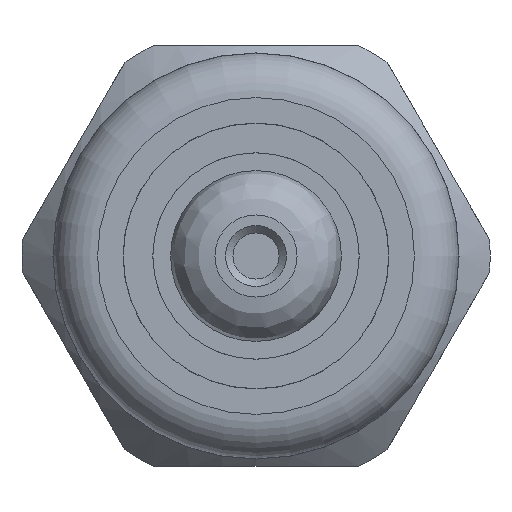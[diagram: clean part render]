
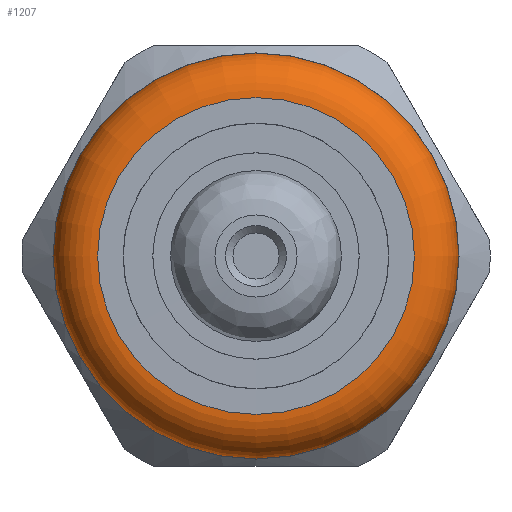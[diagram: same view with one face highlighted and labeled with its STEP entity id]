
A CAD part, left-side view. The second image highlights one B-rep face of the part: STEP entity #1207.
In plain terms, the highlighted toroidal (fillet/blend) face has major radius 10.734 mm and minor radius 3 mm.
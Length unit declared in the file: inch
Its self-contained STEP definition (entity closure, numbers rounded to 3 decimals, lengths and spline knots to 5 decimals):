
#15=TOROIDAL_SURFACE('',#1385,0.4226,0.11811);
#144=FACE_OUTER_BOUND('',#214,.T.);
#214=EDGE_LOOP('',(#1043,#1044,#1045,#1046,#1047,#1048));
#414=CIRCLE('',#1383,0.54071);
#415=CIRCLE('',#1384,0.54071);
#416=CIRCLE('',#1386,0.42233);
#417=CIRCLE('',#1387,0.42233);
#418=CIRCLE('',#1388,0.11811);
#535=VERTEX_POINT('',#2294);
#536=VERTEX_POINT('',#2295);
#537=VERTEX_POINT('',#2300);
#538=VERTEX_POINT('',#2301);
#704=EDGE_CURVE('',#535,#536,#414,.T.);
#705=EDGE_CURVE('',#536,#535,#415,.T.);
#707=EDGE_CURVE('',#537,#538,#416,.T.);
#708=EDGE_CURVE('',#538,#537,#417,.T.);
#709=EDGE_CURVE('',#538,#536,#418,.T.);
#1043=ORIENTED_EDGE('',*,*,#707,.F.);
#1044=ORIENTED_EDGE('',*,*,#708,.F.);
#1045=ORIENTED_EDGE('',*,*,#709,.T.);
#1046=ORIENTED_EDGE('',*,*,#705,.T.);
#1047=ORIENTED_EDGE('',*,*,#704,.T.);
#1048=ORIENTED_EDGE('',*,*,#709,.F.);
#1207=ADVANCED_FACE('',(#144),#15,.T.);
#1383=AXIS2_PLACEMENT_3D('',#2296,#1747,#1748);
#1384=AXIS2_PLACEMENT_3D('',#2297,#1749,#1750);
#1385=AXIS2_PLACEMENT_3D('',#2299,#1752,#1753);
#1386=AXIS2_PLACEMENT_3D('',#2302,#1754,#1755);
#1387=AXIS2_PLACEMENT_3D('',#2303,#1756,#1757);
#1388=AXIS2_PLACEMENT_3D('',#2304,#1758,#1759);
#1747=DIRECTION('center_axis',(-1.,0.,0.));
#1748=DIRECTION('ref_axis',(0.,0.866,-0.5));
#1749=DIRECTION('center_axis',(-1.,0.,0.));
#1750=DIRECTION('ref_axis',(0.,0.866,-0.5));
#1752=DIRECTION('center_axis',(-1.,0.,0.));
#1753=DIRECTION('ref_axis',(0.,0.866,-0.5));
#1754=DIRECTION('center_axis',(-1.,0.,0.));
#1755=DIRECTION('ref_axis',(0.,0.866,-0.5));
#1756=DIRECTION('center_axis',(-1.,0.,0.));
#1757=DIRECTION('ref_axis',(0.,0.866,-0.5));
#1758=DIRECTION('center_axis',(0.,0.5,0.866));
#1759=DIRECTION('ref_axis',(0.,-0.866,0.5));
#2294=CARTESIAN_POINT('',(-2.91065,-0.66797,0.10592));
#2295=CARTESIAN_POINT('',(-2.91065,-1.6045,0.64663));
#2296=CARTESIAN_POINT('Origin',(-2.91065,-1.13623,0.37627));
#2297=CARTESIAN_POINT('Origin',(-2.91065,-1.13623,0.37627));
#2299=CARTESIAN_POINT('Origin',(-2.91038,-1.13623,0.37627));
#2300=CARTESIAN_POINT('',(-3.02849,-0.77049,0.16511));
#2301=CARTESIAN_POINT('',(-3.02849,-1.50198,0.58744));
#2302=CARTESIAN_POINT('Origin',(-3.02849,-1.13623,0.37627));
#2303=CARTESIAN_POINT('Origin',(-3.02849,-1.13623,0.37627));
#2304=CARTESIAN_POINT('Origin',(-2.91038,-1.50221,0.58757));
